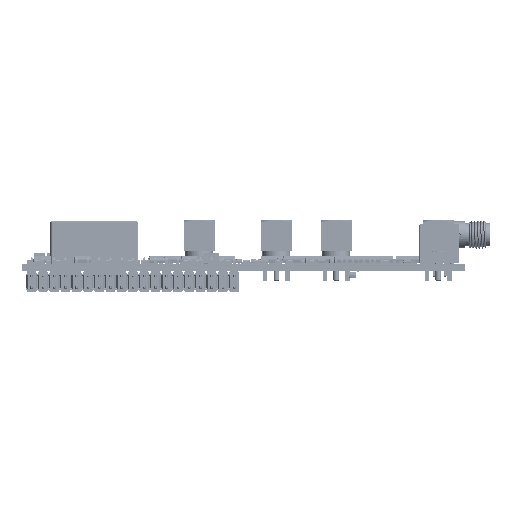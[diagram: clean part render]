
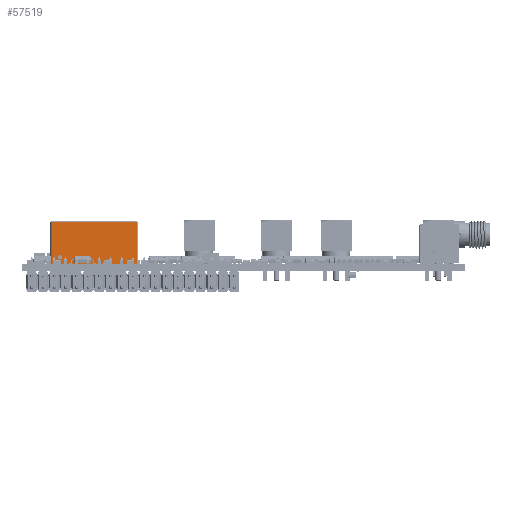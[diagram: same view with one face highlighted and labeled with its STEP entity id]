
A CAD part, front view. The second image highlights one B-rep face of the part: STEP entity #57519.
In plain terms, the highlighted planar face has unit normal (0, -1, 0) as drawn and (0, 0, 1) by its records, which use the part's own axes.
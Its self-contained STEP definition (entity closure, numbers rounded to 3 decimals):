
#56335 = VERTEX_POINT('',#56336);
#56336 = CARTESIAN_POINT('',(-7.329,1.49,3.01));
#56342 = EDGE_CURVE('',#56343,#56335,#56345,.T.);
#56343 = VERTEX_POINT('',#56344);
#56344 = CARTESIAN_POINT('',(-8.27,1.49,3.01));
#56345 = CIRCLE('',#56346,0.47);
#56346 = AXIS2_PLACEMENT_3D('',#56347,#56348,#56349);
#56347 = CARTESIAN_POINT('',(-7.799,1.49,3.01));
#56348 = DIRECTION('',(0.,0.,1.));
#56349 = DIRECTION('',(1.,0.,-0.));
#57088 = VERTEX_POINT('',#57089);
#57089 = CARTESIAN_POINT('',(-9.35,-0.5,3.01));
#57097 = EDGE_CURVE('',#57098,#57088,#57100,.T.);
#57098 = VERTEX_POINT('',#57099);
#57099 = CARTESIAN_POINT('',(-9.55,-0.5,3.01));
#57100 = LINE('',#57101,#57102);
#57101 = CARTESIAN_POINT('',(-9.55,-0.5,3.01));
#57102 = VECTOR('',#57103,1.);
#57103 = DIRECTION('',(1.,0.,0.));
#57327 = VERTEX_POINT('',#57328);
#57328 = CARTESIAN_POINT('',(9.55,-0.5,3.01));
#57334 = EDGE_CURVE('',#57335,#57327,#57337,.T.);
#57335 = VERTEX_POINT('',#57336);
#57336 = CARTESIAN_POINT('',(9.35,-0.5,3.01));
#57337 = LINE('',#57338,#57339);
#57338 = CARTESIAN_POINT('',(9.35,-0.5,3.01));
#57339 = VECTOR('',#57340,1.);
#57340 = DIRECTION('',(1.,0.,0.));
#57362 = VERTEX_POINT('',#57363);
#57363 = CARTESIAN_POINT('',(9.35,0.,3.01));
#57375 = EDGE_CURVE('',#57362,#57335,#57376,.T.);
#57376 = LINE('',#57377,#57378);
#57377 = CARTESIAN_POINT('',(9.35,0.,3.01));
#57378 = VECTOR('',#57379,1.);
#57379 = DIRECTION('',(0.,-1.,0.));
#57389 = EDGE_CURVE('',#57390,#57362,#57392,.T.);
#57390 = VERTEX_POINT('',#57391);
#57391 = CARTESIAN_POINT('',(-9.35,0.,3.01));
#57392 = LINE('',#57393,#57394);
#57393 = CARTESIAN_POINT('',(-9.35,0.,3.01));
#57394 = VECTOR('',#57395,1.);
#57395 = DIRECTION('',(1.,0.,0.));
#57420 = EDGE_CURVE('',#57088,#57390,#57421,.T.);
#57421 = LINE('',#57422,#57423);
#57422 = CARTESIAN_POINT('',(-9.35,-0.5,3.01));
#57423 = VECTOR('',#57424,1.);
#57424 = DIRECTION('',(0.,1.,0.));
#57435 = VERTEX_POINT('',#57436);
#57436 = CARTESIAN_POINT('',(9.55,9.35,3.01));
#57444 = VERTEX_POINT('',#57445);
#57445 = CARTESIAN_POINT('',(-9.55,9.35,3.01));
#57451 = EDGE_CURVE('',#57435,#57444,#57452,.T.);
#57452 = LINE('',#57453,#57454);
#57453 = CARTESIAN_POINT('',(9.55,9.35,3.01));
#57454 = VECTOR('',#57455,1.);
#57455 = DIRECTION('',(-1.,0.,0.));
#57468 = EDGE_CURVE('',#57327,#57435,#57469,.T.);
#57469 = LINE('',#57470,#57471);
#57470 = CARTESIAN_POINT('',(9.55,-0.5,3.01));
#57471 = VECTOR('',#57472,1.);
#57472 = DIRECTION('',(0.,1.,0.));
#57485 = EDGE_CURVE('',#57444,#57098,#57486,.T.);
#57486 = LINE('',#57487,#57488);
#57487 = CARTESIAN_POINT('',(-9.55,9.35,3.01));
#57488 = VECTOR('',#57489,1.);
#57489 = DIRECTION('',(0.,-1.,0.));
#57499 = EDGE_CURVE('',#56335,#56343,#57500,.T.);
#57500 = CIRCLE('',#57501,0.47);
#57501 = AXIS2_PLACEMENT_3D('',#57502,#57503,#57504);
#57502 = CARTESIAN_POINT('',(-7.799,1.49,3.01));
#57503 = DIRECTION('',(0.,0.,1.));
#57504 = DIRECTION('',(1.,0.,-0.));
#57519 = ADVANCED_FACE('',(#57520,#57530),#57534,.T.);
#57520 = FACE_BOUND('',#57521,.T.);
#57521 = EDGE_LOOP('',(#57522,#57523,#57524,#57525,#57526,#57527,#57528,
    #57529));
#57522 = ORIENTED_EDGE('',*,*,#57451,.T.);
#57523 = ORIENTED_EDGE('',*,*,#57485,.T.);
#57524 = ORIENTED_EDGE('',*,*,#57097,.T.);
#57525 = ORIENTED_EDGE('',*,*,#57420,.T.);
#57526 = ORIENTED_EDGE('',*,*,#57389,.T.);
#57527 = ORIENTED_EDGE('',*,*,#57375,.T.);
#57528 = ORIENTED_EDGE('',*,*,#57334,.T.);
#57529 = ORIENTED_EDGE('',*,*,#57468,.T.);
#57530 = FACE_BOUND('',#57531,.T.);
#57531 = EDGE_LOOP('',(#57532,#57533));
#57532 = ORIENTED_EDGE('',*,*,#57499,.F.);
#57533 = ORIENTED_EDGE('',*,*,#56342,.F.);
#57534 = PLANE('',#57535);
#57535 = AXIS2_PLACEMENT_3D('',#57536,#57537,#57538);
#57536 = CARTESIAN_POINT('',(0.,0.,3.01));
#57537 = DIRECTION('',(0.,0.,1.));
#57538 = DIRECTION('',(1.,0.,-0.));
